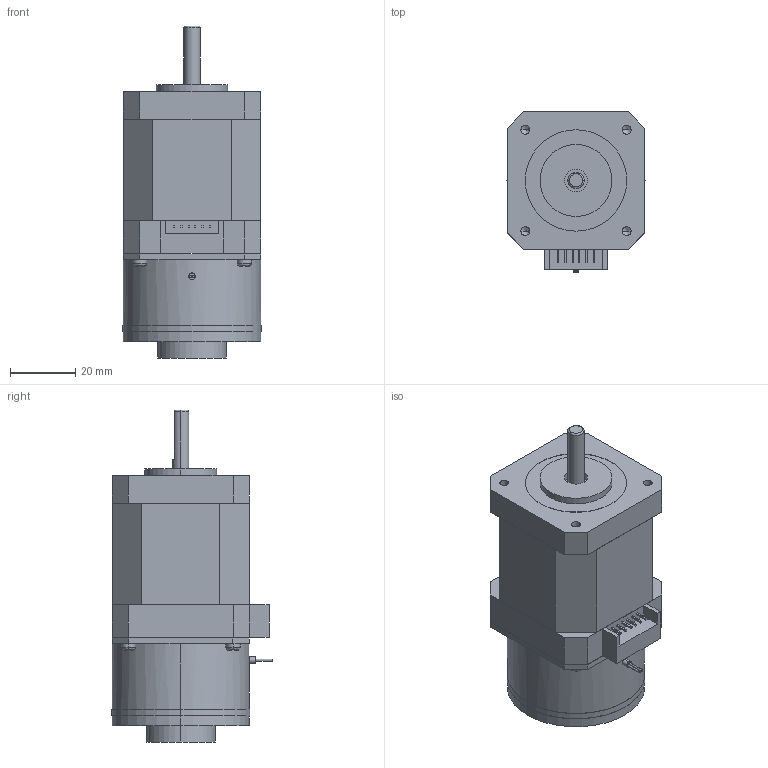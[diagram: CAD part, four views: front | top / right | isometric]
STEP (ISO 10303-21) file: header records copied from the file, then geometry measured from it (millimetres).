
FILE_DESCRIPTION (( 'STEP AP203' ), '1' );
FILE_NAME ('UB42D24-D20-450&UB42D24-2050.STEP', '2019-11-16T02:18:12', ( 'China' ), ( 'Home' ), 'SwSTEP 2.0', 'SolidWorks 2016', '' );
FILE_SCHEMA (( 'CONFIG_CONTROL_DESIGN' ));
Length unit declared in the file: millimetre
Products named in the file (1): UB42D24-D20-450&UB42D24-2050
Bounding box: 42.2 x 49.05 x 101.5 mm (x, y, z)
Volume: 122234.9 mm3; surface area: 19739.3 mm2
Topology: 1 solids, 5 shells, 295 faces, 762 edges, 495 vertices
Faces by surface type: plane 222, cylinder 54, bspline 11, cone 8
Entity records: 9214 total; most frequent: CARTESIAN_POINT 2073, ORIENTED_EDGE 1508, DIRECTION 1371, EDGE_CURVE 754, VECTOR 541, LINE 541, VERTEX_POINT 495, AXIS2_PLACEMENT_3D 415
